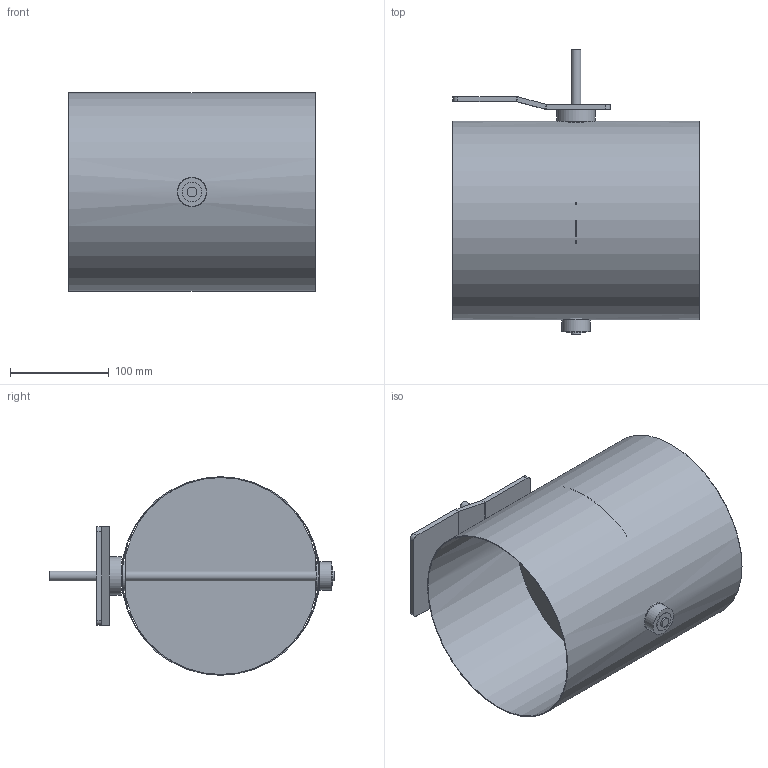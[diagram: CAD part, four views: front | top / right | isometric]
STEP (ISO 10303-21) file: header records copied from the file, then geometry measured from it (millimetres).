
FILE_DESCRIPTION(/* description */ (''),/* implementation_level */ '2;1');
FILE_NAME(/* name */ 'AA101-80B__200_L250_Belimo_Typ_SM.stp',/* time_stamp */ '2017-12-06T14:23:45+01:00',/* author */ (''),/* organization */ (''),/* preprocessor_version */ 'ST-DEVELOPER v11',/* originating_system */ 'SIEMENS UGS NX 6.0',/* authorisation */ '');
FILE_SCHEMA (('CONFIG_CONTROL_DESIGN'));
Length unit declared in the file: millimetre
Products named in the file (1): gars18E2j26y
Bounding box: 250 x 290 x 201.6 mm (x, y, z)
Volume: 284687.2 mm3; surface area: 434028.6 mm2
Topology: 8 solids, 8 shells, 65 faces, 132 edges, 85 vertices
Faces by surface type: plane 36, cylinder 29
Full cylindrical faces by diameter (mm): 4.1 x3, 10 x3, 19 x3, 19.85 x2, 20 x2, 29 x1, 30 x2, 39 x1, 200 x1, 201.6 x1
Entity records: 1726 total; most frequent: CARTESIAN_POINT 318, DIRECTION 288, ORIENTED_EDGE 212, AXIS2_PLACEMENT_3D 120, EDGE_LOOP 108, EDGE_CURVE 106, FACE_BOUND 78, VERTEX_POINT 78
